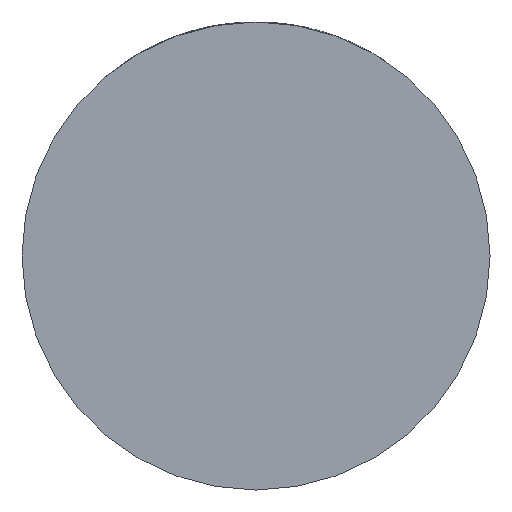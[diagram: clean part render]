
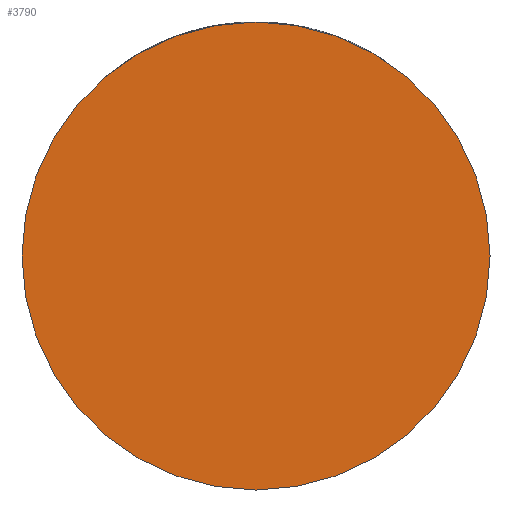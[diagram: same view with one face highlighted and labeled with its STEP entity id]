
A CAD part, front view. The second image highlights one B-rep face of the part: STEP entity #3790.
In plain terms, the highlighted planar face has unit normal (0, -1, 0).
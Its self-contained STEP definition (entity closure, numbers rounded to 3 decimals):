
#12 = FACE_OUTER_BOUND ( 'NONE', #1151, .T. ) ;
#117 = CIRCLE ( 'NONE', #4152, 32. ) ;
#382 = CIRCLE ( 'NONE', #2178, 32. ) ;
#885 = ORIENTED_EDGE ( 'NONE', *, *, #1126, .T. ) ;
#908 = DIRECTION ( 'NONE',  ( 1., 0., 0. ) ) ;
#1005 = DIRECTION ( 'NONE',  ( 0., -1., 0. ) ) ;
#1126 = EDGE_CURVE ( 'NONE', #3619, #2963, #117, .T. ) ;
#1151 = EDGE_LOOP ( 'NONE', ( #3341, #885 ) ) ;
#1594 = EDGE_CURVE ( 'NONE', #2963, #3619, #382, .T. ) ;
#2178 = AXIS2_PLACEMENT_3D ( 'NONE', #3998, #2234, #908 ) ;
#2234 = DIRECTION ( 'NONE',  ( 0., -1., 0. ) ) ;
#2285 = CARTESIAN_POINT ( 'NONE',  ( -32., -27., 0. ) ) ;
#2400 = CARTESIAN_POINT ( 'NONE',  ( 0., -27., 0. ) ) ;
#2421 = DIRECTION ( 'NONE',  ( 1., 0., 0. ) ) ;
#2959 = CARTESIAN_POINT ( 'NONE',  ( 32., -27., 0. ) ) ;
#2963 = VERTEX_POINT ( 'NONE', #2285 ) ;
#3061 = AXIS2_PLACEMENT_3D ( 'NONE', #3448, #3066, #4400 ) ;
#3066 = DIRECTION ( 'NONE',  ( 0., -1., 0. ) ) ;
#3341 = ORIENTED_EDGE ( 'NONE', *, *, #1594, .T. ) ;
#3448 = CARTESIAN_POINT ( 'NONE',  ( 0., -27., 0. ) ) ;
#3619 = VERTEX_POINT ( 'NONE', #2959 ) ;
#3764 = PLANE ( 'NONE',  #3061 ) ;
#3790 = ADVANCED_FACE ( 'NONE', ( #12 ), #3764, .T. ) ;
#3998 = CARTESIAN_POINT ( 'NONE',  ( 0., -27., 0. ) ) ;
#4152 = AXIS2_PLACEMENT_3D ( 'NONE', #2400, #1005, #2421 ) ;
#4400 = DIRECTION ( 'NONE',  ( 1., 0., 0. ) ) ;
